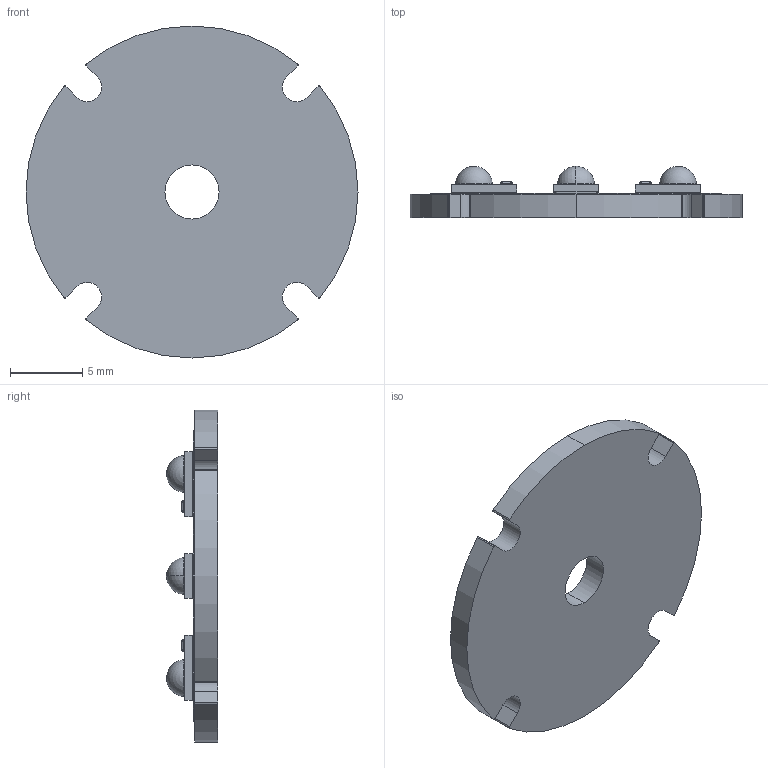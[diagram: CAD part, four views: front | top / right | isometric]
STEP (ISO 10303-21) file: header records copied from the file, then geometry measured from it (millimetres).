
FILE_DESCRIPTION (( 'STEP AP214' ), '1' );
FILE_NAME ('SP-08.STEP', '2014-07-29T16:25:44', ( 'MainServer' ), ( '' ), 'SwSTEP 2.0', 'SolidWorks 2014', '' );
FILE_SCHEMA (( 'AUTOMOTIVE_DESIGN' ));
Length unit declared in the file: inch
Products named in the file (3): Luxeon Rebel ES; SP-08 Base; SP-08
Assembly tree (5 placements, depth 2):
  SP-08
    SP-08 Base
    Luxeon Rebel ES  x4
Bounding box: 23 x 3.55 x 23 mm (x, y, z)
Volume: 678.2 mm3; surface area: 1119.8 mm2
Topology: 5 solids, 5 shells, 1137 faces, 2995 edges, 1958 vertices
Faces by surface type: plane 635, cylinder 295, bspline 159, sphere 24, torus 24
Entity records: 50546 total; most frequent: CARTESIAN_POINT 14948, ORIENTED_EDGE 5094, DIRECTION 4287, EDGE_CURVE 2547, VECTOR 1771, LINE 1771, VERTEX_POINT 1691, AXIS2_PLACEMENT_3D 1258
